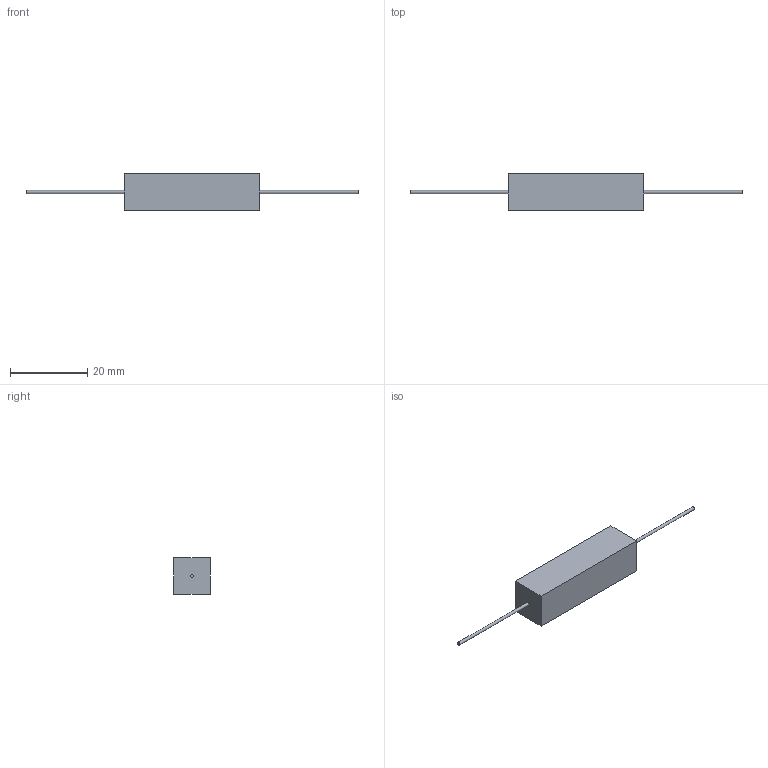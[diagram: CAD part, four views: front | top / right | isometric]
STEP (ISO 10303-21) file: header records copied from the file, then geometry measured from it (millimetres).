
FILE_DESCRIPTION(/* description */ (''),/* implementation_level */ '2;1');
FILE_NAME(/* name */ 'C:\Users\mulla\Documents\SEI Models\Inventor Files\CB\CB7_stp.stp',/* time_stamp */ '2019-06-27T14:44:18-04:00',/* author */ ('mulla'),/* organization */ (''),/* preprocessor_version */ 'ST-DEVELOPER v16.1',/* originating_system */ 'Autodesk Inventor 2016',/* authorisation */ '');
FILE_SCHEMA (('AUTOMOTIVE_DESIGN { 1 0 10303 214 3 1 1 }'));
Length unit declared in the file: millimetre
Products named in the file (1): CB7
Bounding box: 85.8 x 9.5 x 9.5 mm (x, y, z)
Volume: 3184.3 mm3; surface area: 1640.2 mm2
Topology: 3 solids, 3 shells, 12 faces, 18 edges, 12 vertices
Faces by surface type: plane 10, cylinder 2
Full cylindrical faces by diameter (mm): 0.8 x2
Entity records: 278 total; most frequent: DIRECTION 46, CARTESIAN_POINT 41, ORIENTED_EDGE 32, AXIS2_PLACEMENT_3D 17, EDGE_CURVE 16, EDGE_LOOP 14, FACE_OUTER_BOUND 12, LINE 12
